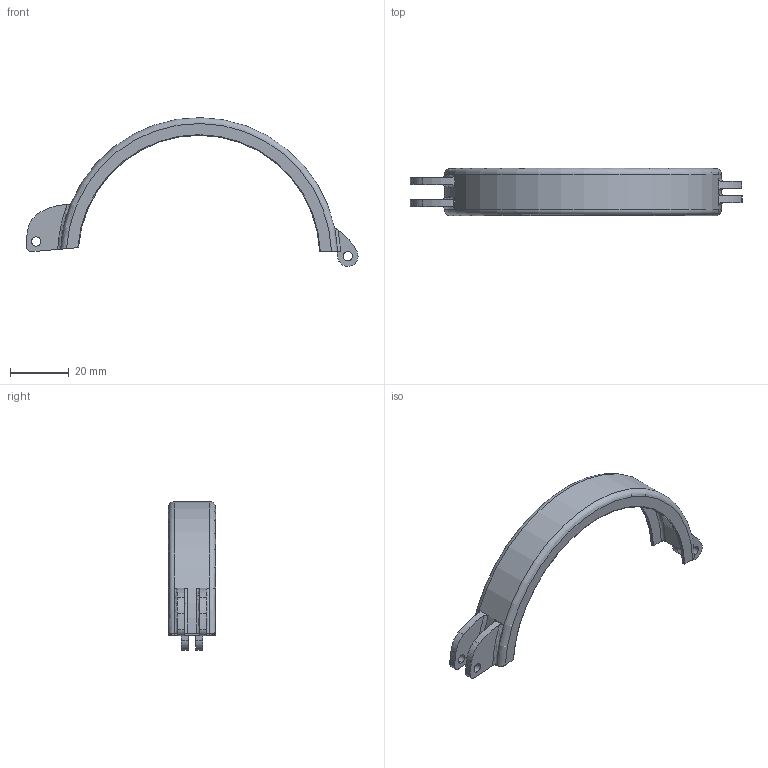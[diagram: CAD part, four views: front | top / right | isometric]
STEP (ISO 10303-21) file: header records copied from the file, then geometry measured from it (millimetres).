
FILE_DESCRIPTION (( 'STEP AP214' ), '1' );
FILE_NAME ('P-01008 - Snap Ring Handle Side - v2.1.3_U-bend.STEP', '2026-06-12T21:56:13', ( '' ), ( '' ), 'SwSTEP 2.0', 'SolidWorks 2023', '' );
FILE_SCHEMA (( 'AUTOMOTIVE_DESIGN' ));
Length unit declared in the file: inch
Products named in the file (1): P-01008 - Snap Ring Handle Side - v2.1.3_U-bend
Bounding box: 112.66 x 16 x 50.47 mm (x, y, z)
Volume: 4436.2 mm3; surface area: 8179.3 mm2
Topology: 1 solids, 1 shells, 62 faces, 180 edges, 120 vertices
Faces by surface type: cylinder 28, torus 18, plane 16
Entity records: 2502 total; most frequent: CARTESIAN_POINT 802, ORIENTED_EDGE 360, DIRECTION 356, EDGE_CURVE 180, AXIS2_PLACEMENT_3D 147, VERTEX_POINT 120, CIRCLE 84, EDGE_LOOP 70
